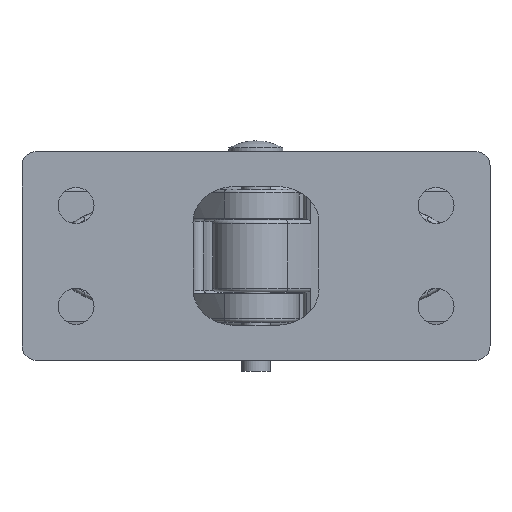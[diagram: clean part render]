
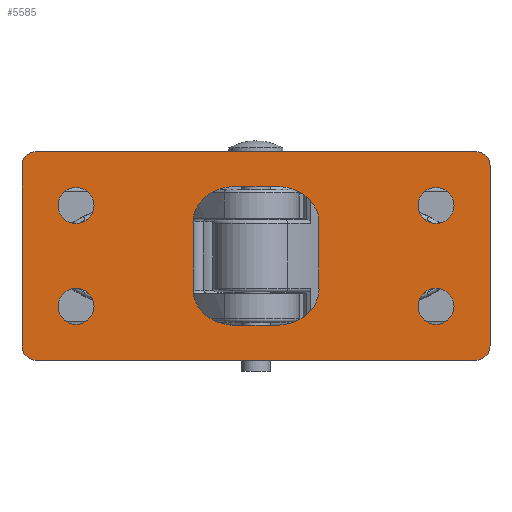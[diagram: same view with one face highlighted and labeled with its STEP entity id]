
A CAD part, top view. The second image highlights one B-rep face of the part: STEP entity #5585.
In plain terms, the highlighted planar face has unit normal (0, 0, 1).
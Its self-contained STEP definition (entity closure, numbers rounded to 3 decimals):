
#39=ELLIPSE('',#6300,5.774,5.);
#40=ELLIPSE('',#6301,5.774,5.);
#41=ELLIPSE('',#6302,5.774,5.);
#42=ELLIPSE('',#6303,5.774,5.);
#456=LINE('',#15980,#676);
#463=LINE('',#16029,#683);
#464=LINE('',#16032,#684);
#465=LINE('',#16035,#685);
#466=LINE('',#16046,#686);
#467=LINE('',#16050,#687);
#468=LINE('',#16054,#688);
#469=LINE('',#16058,#689);
#676=VECTOR('',#7794,61.);
#683=VECTOR('',#7855,25.);
#684=VECTOR('',#7858,25.);
#685=VECTOR('',#7861,61.);
#686=VECTOR('',#7870,9.25);
#687=VECTOR('',#7873,5.953);
#688=VECTOR('',#7876,9.25);
#689=VECTOR('',#7879,5.953);
#828=PLANE('',#6292);
#916=FACE_BOUND('',#1831,.T.);
#917=FACE_BOUND('',#1832,.T.);
#918=FACE_BOUND('',#1833,.T.);
#919=FACE_BOUND('',#1834,.T.);
#920=FACE_BOUND('',#1835,.T.);
#1386=FACE_OUTER_BOUND('',#1830,.T.);
#1830=EDGE_LOOP('',(#4844,#4845,#4846,#4847,#4848,#4849,#4850,#4851));
#1831=EDGE_LOOP('',(#4852));
#1832=EDGE_LOOP('',(#4853));
#1833=EDGE_LOOP('',(#4854));
#1834=EDGE_LOOP('',(#4855));
#1835=EDGE_LOOP('',(#4856,#4857,#4858,#4859,#4860,#4861,#4862,#4863));
#2327=CIRCLE('',#6291,2.);
#2328=CIRCLE('',#6293,2.);
#2329=CIRCLE('',#6294,2.);
#2330=CIRCLE('',#6295,2.);
#2331=CIRCLE('',#6296,2.5);
#2332=CIRCLE('',#6297,2.5);
#2333=CIRCLE('',#6298,2.5);
#2334=CIRCLE('',#6299,2.5);
#2774=VERTEX_POINT('',#15977);
#2775=VERTEX_POINT('',#15979);
#2787=VERTEX_POINT('',#16021);
#2788=VERTEX_POINT('',#16025);
#2789=VERTEX_POINT('',#16026);
#2790=VERTEX_POINT('',#16028);
#2791=VERTEX_POINT('',#16031);
#2792=VERTEX_POINT('',#16033);
#2793=VERTEX_POINT('',#16036);
#2794=VERTEX_POINT('',#16038);
#2795=VERTEX_POINT('',#16040);
#2796=VERTEX_POINT('',#16042);
#2797=VERTEX_POINT('',#16044);
#2798=VERTEX_POINT('',#16045);
#2799=VERTEX_POINT('',#16047);
#2800=VERTEX_POINT('',#16049);
#2801=VERTEX_POINT('',#16051);
#2802=VERTEX_POINT('',#16053);
#2803=VERTEX_POINT('',#16055);
#2804=VERTEX_POINT('',#16057);
#3481=EDGE_CURVE('',#2774,#2775,#456,.T.);
#3503=EDGE_CURVE('',#2787,#2774,#2327,.T.);
#3504=EDGE_CURVE('',#2788,#2789,#2328,.T.);
#3505=EDGE_CURVE('',#2788,#2790,#463,.T.);
#3506=EDGE_CURVE('',#2775,#2790,#2329,.T.);
#3507=EDGE_CURVE('',#2787,#2791,#464,.T.);
#3508=EDGE_CURVE('',#2792,#2791,#2330,.T.);
#3509=EDGE_CURVE('',#2792,#2789,#465,.T.);
#3510=EDGE_CURVE('',#2793,#2793,#2331,.T.);
#3511=EDGE_CURVE('',#2794,#2794,#2332,.T.);
#3512=EDGE_CURVE('',#2795,#2795,#2333,.T.);
#3513=EDGE_CURVE('',#2796,#2796,#2334,.T.);
#3514=EDGE_CURVE('',#2797,#2798,#466,.T.);
#3515=EDGE_CURVE('',#2798,#2799,#39,.T.);
#3516=EDGE_CURVE('',#2800,#2799,#467,.T.);
#3517=EDGE_CURVE('',#2801,#2800,#40,.T.);
#3518=EDGE_CURVE('',#2802,#2801,#468,.T.);
#3519=EDGE_CURVE('',#2803,#2802,#41,.T.);
#3520=EDGE_CURVE('',#2804,#2803,#469,.T.);
#3521=EDGE_CURVE('',#2797,#2804,#42,.T.);
#4844=ORIENTED_EDGE('',*,*,#3504,.F.);
#4845=ORIENTED_EDGE('',*,*,#3505,.T.);
#4846=ORIENTED_EDGE('',*,*,#3506,.F.);
#4847=ORIENTED_EDGE('',*,*,#3481,.F.);
#4848=ORIENTED_EDGE('',*,*,#3503,.F.);
#4849=ORIENTED_EDGE('',*,*,#3507,.T.);
#4850=ORIENTED_EDGE('',*,*,#3508,.F.);
#4851=ORIENTED_EDGE('',*,*,#3509,.T.);
#4852=ORIENTED_EDGE('',*,*,#3510,.F.);
#4853=ORIENTED_EDGE('',*,*,#3511,.F.);
#4854=ORIENTED_EDGE('',*,*,#3512,.F.);
#4855=ORIENTED_EDGE('',*,*,#3513,.F.);
#4856=ORIENTED_EDGE('',*,*,#3514,.T.);
#4857=ORIENTED_EDGE('',*,*,#3515,.T.);
#4858=ORIENTED_EDGE('',*,*,#3516,.F.);
#4859=ORIENTED_EDGE('',*,*,#3517,.F.);
#4860=ORIENTED_EDGE('',*,*,#3518,.F.);
#4861=ORIENTED_EDGE('',*,*,#3519,.F.);
#4862=ORIENTED_EDGE('',*,*,#3520,.F.);
#4863=ORIENTED_EDGE('',*,*,#3521,.F.);
#5585=ADVANCED_FACE('',(#1386,#916,#917,#918,#919,#920),#828,.T.);
#6291=AXIS2_PLACEMENT_3D('',#16023,#7849,#7850);
#6292=AXIS2_PLACEMENT_3D('',#16024,#7851,#7852);
#6293=AXIS2_PLACEMENT_3D('',#16027,#7853,#7854);
#6294=AXIS2_PLACEMENT_3D('',#16030,#7856,#7857);
#6295=AXIS2_PLACEMENT_3D('',#16034,#7859,#7860);
#6296=AXIS2_PLACEMENT_3D('',#16037,#7862,#7863);
#6297=AXIS2_PLACEMENT_3D('',#16039,#7864,#7865);
#6298=AXIS2_PLACEMENT_3D('',#16041,#7866,#7867);
#6299=AXIS2_PLACEMENT_3D('',#16043,#7868,#7869);
#6300=AXIS2_PLACEMENT_3D('',#16048,#7871,#7872);
#6301=AXIS2_PLACEMENT_3D('',#16052,#7874,#7875);
#6302=AXIS2_PLACEMENT_3D('',#16056,#7877,#7878);
#6303=AXIS2_PLACEMENT_3D('',#16059,#7880,#7881);
#7794=DIRECTION('',(-1.,0.,0.));
#7849=DIRECTION('center_axis',(0.,0.,-1.));
#7850=DIRECTION('ref_axis',(1.,0.,0.));
#7851=DIRECTION('center_axis',(0.,0.,1.));
#7852=DIRECTION('ref_axis',(1.,0.,0.));
#7853=DIRECTION('center_axis',(0.,0.,-1.));
#7854=DIRECTION('ref_axis',(-1.,0.,0.));
#7855=DIRECTION('',(0.,-1.,0.));
#7856=DIRECTION('center_axis',(0.,0.,-1.));
#7857=DIRECTION('ref_axis',(0.,-1.,0.));
#7858=DIRECTION('',(0.,1.,0.));
#7859=DIRECTION('center_axis',(0.,0.,-1.));
#7860=DIRECTION('ref_axis',(0.,1.,0.));
#7861=DIRECTION('',(-1.,0.,0.));
#7862=DIRECTION('center_axis',(0.,0.,1.));
#7863=DIRECTION('ref_axis',(-1.,0.,0.));
#7864=DIRECTION('center_axis',(0.,0.,1.));
#7865=DIRECTION('ref_axis',(-1.,0.,0.));
#7866=DIRECTION('center_axis',(0.,0.,1.));
#7867=DIRECTION('ref_axis',(-1.,0.,0.));
#7868=DIRECTION('center_axis',(0.,0.,1.));
#7869=DIRECTION('ref_axis',(-1.,0.,0.));
#7870=DIRECTION('',(0.,1.,0.));
#7871=DIRECTION('center_axis',(0.,0.,-1.));
#7872=DIRECTION('ref_axis',(-1.,0.,0.));
#7873=DIRECTION('',(-1.,0.,0.));
#7874=DIRECTION('center_axis',(0.,0.,1.));
#7875=DIRECTION('ref_axis',(1.,0.,0.));
#7876=DIRECTION('',(0.,1.,0.));
#7877=DIRECTION('center_axis',(0.,0.,1.));
#7878=DIRECTION('ref_axis',(1.,0.,0.));
#7879=DIRECTION('',(1.,0.,0.));
#7880=DIRECTION('center_axis',(0.,0.,1.));
#7881=DIRECTION('ref_axis',(-1.,0.,0.));
#15977=CARTESIAN_POINT('',(30.5,-14.5,8.));
#15979=CARTESIAN_POINT('',(-30.5,-14.5,8.));
#15980=CARTESIAN_POINT('',(30.5,-14.5,8.));
#16021=CARTESIAN_POINT('',(32.5,-12.5,8.));
#16023=CARTESIAN_POINT('Origin',(30.5,-12.5,8.));
#16024=CARTESIAN_POINT('Origin',(0.,0.,8.));
#16025=CARTESIAN_POINT('',(-32.5,12.5,8.));
#16026=CARTESIAN_POINT('',(-30.5,14.5,8.));
#16027=CARTESIAN_POINT('Origin',(-30.5,12.5,8.));
#16028=CARTESIAN_POINT('',(-32.5,-12.5,8.));
#16029=CARTESIAN_POINT('',(-32.5,12.5,8.));
#16030=CARTESIAN_POINT('Origin',(-30.5,-12.5,8.));
#16031=CARTESIAN_POINT('',(32.5,12.5,8.));
#16032=CARTESIAN_POINT('',(32.5,-12.5,8.));
#16033=CARTESIAN_POINT('',(30.5,14.5,8.));
#16034=CARTESIAN_POINT('Origin',(30.5,12.5,8.));
#16035=CARTESIAN_POINT('',(30.5,14.5,8.));
#16036=CARTESIAN_POINT('',(27.5,-7.,8.));
#16037=CARTESIAN_POINT('Origin',(25.,-7.,8.));
#16038=CARTESIAN_POINT('',(27.5,7.,8.));
#16039=CARTESIAN_POINT('Origin',(25.,7.,8.));
#16040=CARTESIAN_POINT('',(-22.5,-7.,8.));
#16041=CARTESIAN_POINT('Origin',(-25.,-7.,8.));
#16042=CARTESIAN_POINT('',(-22.5,7.,8.));
#16043=CARTESIAN_POINT('Origin',(-25.,7.,8.));
#16044=CARTESIAN_POINT('',(-8.75,-4.625,8.));
#16045=CARTESIAN_POINT('',(-8.75,4.625,8.));
#16046=CARTESIAN_POINT('',(-8.75,-4.625,8.));
#16047=CARTESIAN_POINT('',(-2.976,9.625,8.));
#16048=CARTESIAN_POINT('Origin',(-2.976,4.625,8.));
#16049=CARTESIAN_POINT('',(2.976,9.625,8.));
#16050=CARTESIAN_POINT('',(2.976,9.625,8.));
#16051=CARTESIAN_POINT('',(8.75,4.625,8.));
#16052=CARTESIAN_POINT('Origin',(2.976,4.625,8.));
#16053=CARTESIAN_POINT('',(8.75,-4.625,8.));
#16054=CARTESIAN_POINT('',(8.75,-4.625,8.));
#16055=CARTESIAN_POINT('',(2.976,-9.625,8.));
#16056=CARTESIAN_POINT('Origin',(2.976,-4.625,8.));
#16057=CARTESIAN_POINT('',(-2.976,-9.625,8.));
#16058=CARTESIAN_POINT('',(-2.976,-9.625,8.));
#16059=CARTESIAN_POINT('Origin',(-2.976,-4.625,8.));
